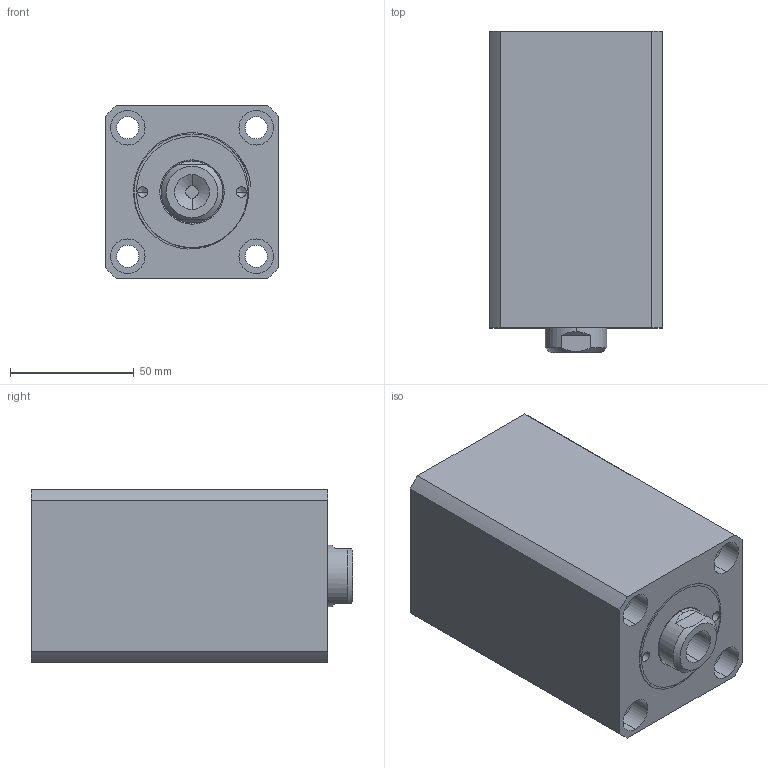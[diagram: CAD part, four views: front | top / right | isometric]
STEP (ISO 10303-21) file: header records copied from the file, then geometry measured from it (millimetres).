
FILE_DESCRIPTION (( 'STEP AP214' ), '1' );
FILE_NAME ('chtb-sdmb40x65n_asm.STEP', '2018-06-07T02:26:09', ( 'Windows' ), ( 'Microsoft' ), 'SwSTEP 2.0', 'SolidWorks 2015', '' );
FILE_SCHEMA (( 'AUTOMOTIVE_DESIGN' ));
Length unit declared in the file: millimetre
Products named in the file (4): CHTB-SDMB40X65NBT; CHTB-SD40X65NHSG; chtb-sdmb40x65n_asm; CHTB-SD40QG
Assembly tree (3 placements, depth 2):
  chtb-sdmb40x65n_asm
    CHTB-SD40X65NHSG
    CHTB-SDMB40X65NBT
    CHTB-SD40QG
Bounding box: 70 x 130 x 70 mm (x, y, z)
Volume: 488676.5 mm3; surface area: 98824.1 mm2
Topology: 3 solids, 3 shells, 155 faces, 407 edges, 270 vertices
Faces by surface type: cylinder 84, plane 34, torus 14, bspline 14, cone 9
Entity records: 10007 total; most frequent: CARTESIAN_POINT 6085, ORIENTED_EDGE 802, DIRECTION 758, EDGE_CURVE 401, AXIS2_PLACEMENT_3D 322, VERTEX_POINT 270, EDGE_LOOP 191, CIRCLE 175
